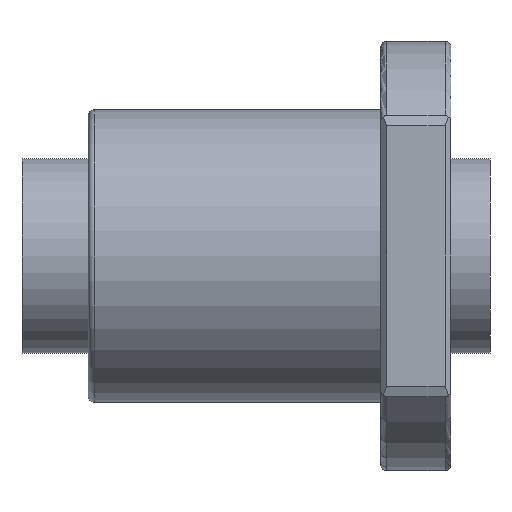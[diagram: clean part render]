
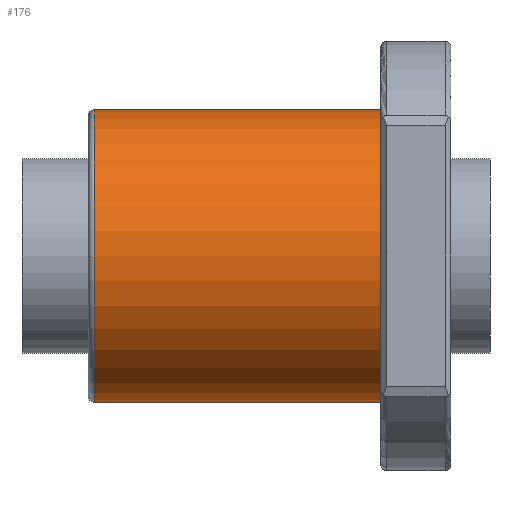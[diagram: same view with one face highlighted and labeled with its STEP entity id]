
A CAD part, left-side view. The second image highlights one B-rep face of the part: STEP entity #176.
In plain terms, the highlighted cylindrical face has radius 37.5 mm (diameter 75 mm), a full revolution.
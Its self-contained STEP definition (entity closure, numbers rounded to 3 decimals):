
#176=ADVANCED_FACE('',(#264,#265),#229,.T.);
#229=CYLINDRICAL_SURFACE('',#905,37.5);
#264=FACE_BOUND('',#362,.T.);
#265=FACE_BOUND('',#363,.T.);
#362=EDGE_LOOP('',(#486));
#363=EDGE_LOOP('',(#487));
#486=ORIENTED_EDGE('',*,*,#753,.T.);
#487=ORIENTED_EDGE('',*,*,#725,.F.);
#646=VERTEX_POINT('',#1253);
#674=VERTEX_POINT('',#1314);
#725=EDGE_CURVE('',#646,#646,#820,.T.);
#753=EDGE_CURVE('',#674,#674,#840,.T.);
#820=CIRCLE('',#879,37.5);
#840=CIRCLE('',#904,37.5);
#879=AXIS2_PLACEMENT_3D('',#1252,#1006,#1007);
#904=AXIS2_PLACEMENT_3D('',#1313,#1064,#1065);
#905=AXIS2_PLACEMENT_3D('',#1315,#1066,#1067);
#1006=DIRECTION('',(0.,-1.,0.));
#1007=DIRECTION('',(0.,0.,-1.));
#1064=DIRECTION('',(0.,-1.,0.));
#1065=DIRECTION('',(0.,0.,-1.));
#1066=DIRECTION('',(0.,-1.,0.));
#1067=DIRECTION('',(0.,0.,-1.));
#1252=CARTESIAN_POINT('',(0.,18.,0.));
#1253=CARTESIAN_POINT('',(0.,18.,-37.5));
#1313=CARTESIAN_POINT('',(0.,91.5,0.));
#1314=CARTESIAN_POINT('',(0.,91.5,-37.5));
#1315=CARTESIAN_POINT('',(0.,93.,0.));
